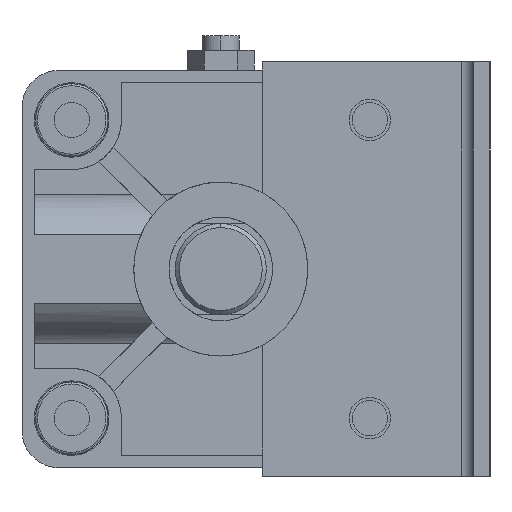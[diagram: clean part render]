
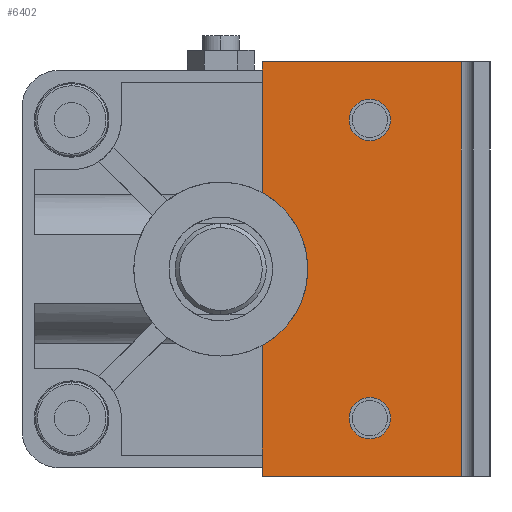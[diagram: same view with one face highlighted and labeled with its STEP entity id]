
A CAD part, left-side view. The second image highlights one B-rep face of the part: STEP entity #6402.
In plain terms, the highlighted planar face has unit normal (-1, 0, 0) as drawn and (0, 0, 1) by its records, which use the part's own axes.
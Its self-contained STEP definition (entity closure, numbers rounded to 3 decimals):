
#87 = ORIENTED_EDGE ( 'NONE', *, *, #5038, .T. ) ;
#92 = ORIENTED_EDGE ( 'NONE', *, *, #2042, .F. ) ;
#100 = CARTESIAN_POINT ( 'NONE',  ( 50., -37.5, 0. ) ) ;
#690 = DIRECTION ( 'NONE',  ( 1., 0., 0. ) ) ;
#770 = EDGE_CURVE ( 'NONE', #2041, #4385, #2019, .T. ) ;
#835 = DIRECTION ( 'NONE',  ( 0., 0., 1. ) ) ;
#878 = AXIS2_PLACEMENT_3D ( 'NONE', #6573, #835, #8269 ) ;
#891 = CARTESIAN_POINT ( 'NONE',  ( -18.466, -10., 0. ) ) ;
#1062 = CARTESIAN_POINT ( 'NONE',  ( 18.466, -10., 0. ) ) ;
#1091 = CARTESIAN_POINT ( 'NONE',  ( 31., -36., 0. ) ) ;
#1114 = CIRCLE ( 'NONE', #3804, 5. ) ;
#1204 = VERTEX_POINT ( 'NONE', #891 ) ;
#1346 = CARTESIAN_POINT ( 'NONE',  ( 0., -10., 0. ) ) ;
#1359 = DIRECTION ( 'NONE',  ( 1., 0., 0. ) ) ;
#1365 = CARTESIAN_POINT ( 'NONE',  ( 0., 0., 0. ) ) ;
#1377 = EDGE_CURVE ( 'NONE', #4771, #3859, #3375, .T. ) ;
#1749 = EDGE_CURVE ( 'NONE', #2261, #2041, #3822, .T. ) ;
#1861 = CARTESIAN_POINT ( 'NONE',  ( -41., -36., 0. ) ) ;
#1864 = AXIS2_PLACEMENT_3D ( 'NONE', #8079, #5854, #6673 ) ;
#1892 = VECTOR ( 'NONE', #6810, 1000. ) ;
#2019 = LINE ( 'NONE', #6783, #3897 ) ;
#2041 = VERTEX_POINT ( 'NONE', #8120 ) ;
#2042 = EDGE_CURVE ( 'NONE', #5522, #8009, #4042, .T. ) ;
#2261 = VERTEX_POINT ( 'NONE', #5979 ) ;
#2312 = CARTESIAN_POINT ( 'NONE',  ( 0., -58., 0. ) ) ;
#2411 = FACE_BOUND ( 'NONE', #4464, .T. ) ;
#2430 = DIRECTION ( 'NONE',  ( 0., 1., 0. ) ) ;
#2694 = EDGE_CURVE ( 'NONE', #3859, #1204, #7937, .T. ) ;
#2755 = VECTOR ( 'NONE', #3238, 1000. ) ;
#2933 = EDGE_LOOP ( 'NONE', ( #6449, #87, #4186, #5822, #3709, #4993 ) ) ;
#3090 = FACE_BOUND ( 'NONE', #4891, .T. ) ;
#3192 = AXIS2_PLACEMENT_3D ( 'NONE', #8254, #4661, #1359 ) ;
#3238 = DIRECTION ( 'NONE',  ( 0., -1., 0. ) ) ;
#3266 = EDGE_CURVE ( 'NONE', #4771, #2261, #5388, .T. ) ;
#3375 = LINE ( 'NONE', #6645, #5355 ) ;
#3498 = DIRECTION ( 'NONE',  ( 0., 0., 1. ) ) ;
#3709 = ORIENTED_EDGE ( 'NONE', *, *, #3266, .F. ) ;
#3794 = CARTESIAN_POINT ( 'NONE',  ( -50., -58., 0. ) ) ;
#3804 = AXIS2_PLACEMENT_3D ( 'NONE', #6741, #7501, #5105 ) ;
#3822 = LINE ( 'NONE', #2312, #1892 ) ;
#3859 = VERTEX_POINT ( 'NONE', #1062 ) ;
#3897 = VECTOR ( 'NONE', #2430, 1000. ) ;
#4042 = CIRCLE ( 'NONE', #878, 5. ) ;
#4186 = ORIENTED_EDGE ( 'NONE', *, *, #770, .F. ) ;
#4376 = DIRECTION ( 'NONE',  ( -1., 0., 0. ) ) ;
#4385 = VERTEX_POINT ( 'NONE', #7469 ) ;
#4464 = EDGE_LOOP ( 'NONE', ( #7272, #6956 ) ) ;
#4609 = FACE_OUTER_BOUND ( 'NONE', #2933, .T. ) ;
#4661 = DIRECTION ( 'NONE',  ( 0., 0., 1. ) ) ;
#4771 = VERTEX_POINT ( 'NONE', #7633 ) ;
#4775 = CIRCLE ( 'NONE', #1864, 5. ) ;
#4891 = EDGE_LOOP ( 'NONE', ( #5116, #92 ) ) ;
#4993 = ORIENTED_EDGE ( 'NONE', *, *, #1377, .T. ) ;
#5038 = EDGE_CURVE ( 'NONE', #1204, #4385, #7964, .T. ) ;
#5105 = DIRECTION ( 'NONE',  ( 1., 0., 0. ) ) ;
#5106 = AXIS2_PLACEMENT_3D ( 'NONE', #3794, #3498, #6099 ) ;
#5116 = ORIENTED_EDGE ( 'NONE', *, *, #5442, .F. ) ;
#5355 = VECTOR ( 'NONE', #7922, 1000. ) ;
#5388 = LINE ( 'NONE', #100, #2755 ) ;
#5407 = CARTESIAN_POINT ( 'NONE',  ( -31., -36., 0. ) ) ;
#5442 = EDGE_CURVE ( 'NONE', #8009, #5522, #7056, .T. ) ;
#5522 = VERTEX_POINT ( 'NONE', #1091 ) ;
#5749 = VECTOR ( 'NONE', #4376, 1000. ) ;
#5822 = ORIENTED_EDGE ( 'NONE', *, *, #1749, .F. ) ;
#5827 = CARTESIAN_POINT ( 'NONE',  ( 41., -36., 0. ) ) ;
#5854 = DIRECTION ( 'NONE',  ( 0., 0., 1. ) ) ;
#5880 = AXIS2_PLACEMENT_3D ( 'NONE', #1365, #7853, #690 ) ;
#5979 = CARTESIAN_POINT ( 'NONE',  ( 50., -58., 0. ) ) ;
#6099 = DIRECTION ( 'NONE',  ( 1., 0., 0. ) ) ;
#6152 = EDGE_CURVE ( 'NONE', #6404, #7014, #1114, .T. ) ;
#6402 = ADVANCED_FACE ( 'NONE', ( #3090, #2411, #4609 ), #7664, .T. ) ;
#6404 = VERTEX_POINT ( 'NONE', #5407 ) ;
#6449 = ORIENTED_EDGE ( 'NONE', *, *, #2694, .T. ) ;
#6573 = CARTESIAN_POINT ( 'NONE',  ( 36., -36., 0. ) ) ;
#6645 = CARTESIAN_POINT ( 'NONE',  ( 0., -10., 0. ) ) ;
#6673 = DIRECTION ( 'NONE',  ( 1., 0., 0. ) ) ;
#6741 = CARTESIAN_POINT ( 'NONE',  ( -36., -36., 0. ) ) ;
#6783 = CARTESIAN_POINT ( 'NONE',  ( -50., -37.5, 0. ) ) ;
#6810 = DIRECTION ( 'NONE',  ( -1., 0., 0. ) ) ;
#6956 = ORIENTED_EDGE ( 'NONE', *, *, #8325, .F. ) ;
#7014 = VERTEX_POINT ( 'NONE', #1861 ) ;
#7056 = CIRCLE ( 'NONE', #3192, 5. ) ;
#7272 = ORIENTED_EDGE ( 'NONE', *, *, #6152, .F. ) ;
#7469 = CARTESIAN_POINT ( 'NONE',  ( -50., -10., 0. ) ) ;
#7501 = DIRECTION ( 'NONE',  ( 0., 0., 1. ) ) ;
#7633 = CARTESIAN_POINT ( 'NONE',  ( 50., -10., 0. ) ) ;
#7664 = PLANE ( 'NONE',  #5106 ) ;
#7853 = DIRECTION ( 'NONE',  ( 0., 0., -1. ) ) ;
#7922 = DIRECTION ( 'NONE',  ( -1., 0., 0. ) ) ;
#7937 = CIRCLE ( 'NONE', #5880, 21. ) ;
#7964 = LINE ( 'NONE', #1346, #5749 ) ;
#8009 = VERTEX_POINT ( 'NONE', #5827 ) ;
#8079 = CARTESIAN_POINT ( 'NONE',  ( -36., -36., 0. ) ) ;
#8120 = CARTESIAN_POINT ( 'NONE',  ( -50., -58., 0. ) ) ;
#8254 = CARTESIAN_POINT ( 'NONE',  ( 36., -36., 0. ) ) ;
#8269 = DIRECTION ( 'NONE',  ( 1., 0., 0. ) ) ;
#8325 = EDGE_CURVE ( 'NONE', #7014, #6404, #4775, .T. ) ;
